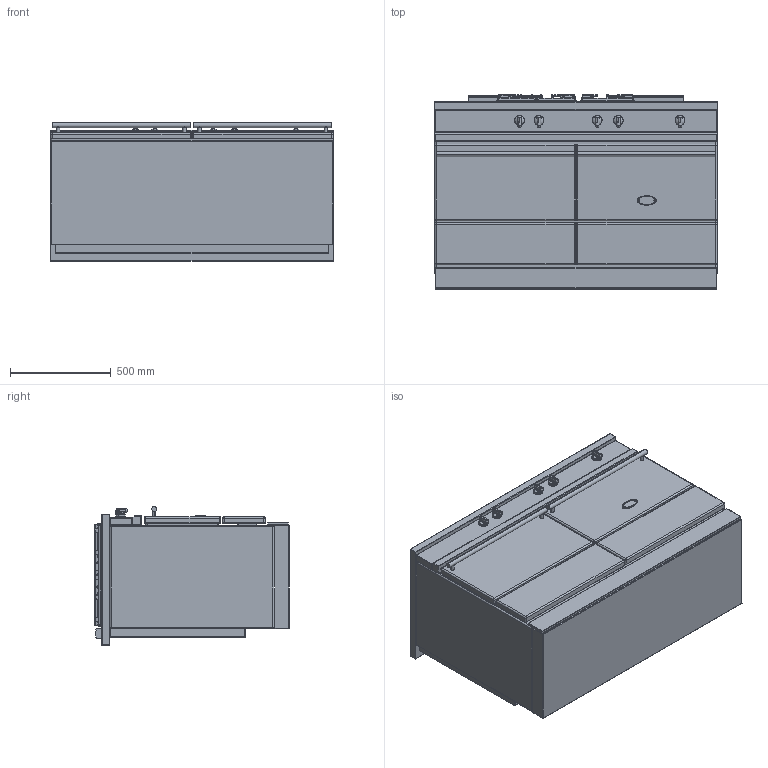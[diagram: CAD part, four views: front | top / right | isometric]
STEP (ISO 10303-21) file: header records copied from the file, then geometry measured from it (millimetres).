
FILE_DESCRIPTION((''),'2;1');
FILE_NAME('LMG1432_ASM','2022-04-13T11:52:06',('stagiaire'),(''),'CREO PARAMETRIC BY PTC INC, 2021424','CREO PARAMETRIC BY PTC INC, 2021424','');
FILE_SCHEMA(('AP203_CONFIGURATION_CONTROLLED_3D_DESIGN_OF_MECHANICAL_PARTS_AND_ASSEMBLIES_MIM_LF { 1 0 10303 403 2 1 2 }'));
Products named in the file (19): BASE_EXPORT_SULLY_LMG1432; 65064012; 19150009; 88064012_ASM; 65049009; 65650001; BASE_EXPORT_SULLY_LMG1432_ASM; TABLE_SULLY_1405_3_FEUX; 5KW; 1_5KW; 3KW; 6537025; 65149005; 90000488_ASM; 6537023; 90000565_ASM; CHEMINEE_2020_LG371_EXPORT_STEP; TABLE_SULLY_1405_3_FEUX_ASM; LMG1432_ASM
Assembly tree (31 placements, depth 4):
  LMG1432_ASM
    BASE_EXPORT_SULLY_LMG1432_ASM
      BASE_EXPORT_SULLY_LMG1432
      88064012_ASM  x5
        65064012
        19150009
      65049009
      65650001
    TABLE_SULLY_1405_3_FEUX_ASM
      TABLE_SULLY_1405_3_FEUX
      5KW
      1_5KW
      3KW
      90000488_ASM  x2
        6537025
        65149005
      90000565_ASM
        6537023
        65149005  x4
      CHEMINEE_2020_LG371_EXPORT_STEP  x2
Bounding box: 1405 x 965 x 688.5 mm (x, y, z)
Volume: 750880074.9 mm3; surface area: 11120116 mm2
Topology: 38 solids, 38 shells, 4461 faces, 12292 edges, 7855 vertices
Faces by surface type: cylinder 1547, plane 1380, bspline 919, sphere 252, cone 216, torus 125, extrusion 22
Entity records: 127248 total; most frequent: CARTESIAN_POINT 44853, ORIENTED_EDGE 13064, DIRECTION 11895, EDGE_CURVE 6532, PRESENTATION_STYLE_ASSIGNMENT 4339, STYLED_ITEM 4339, CURVE_STYLE 4169, AXIS2_PLACEMENT_3D 4044
